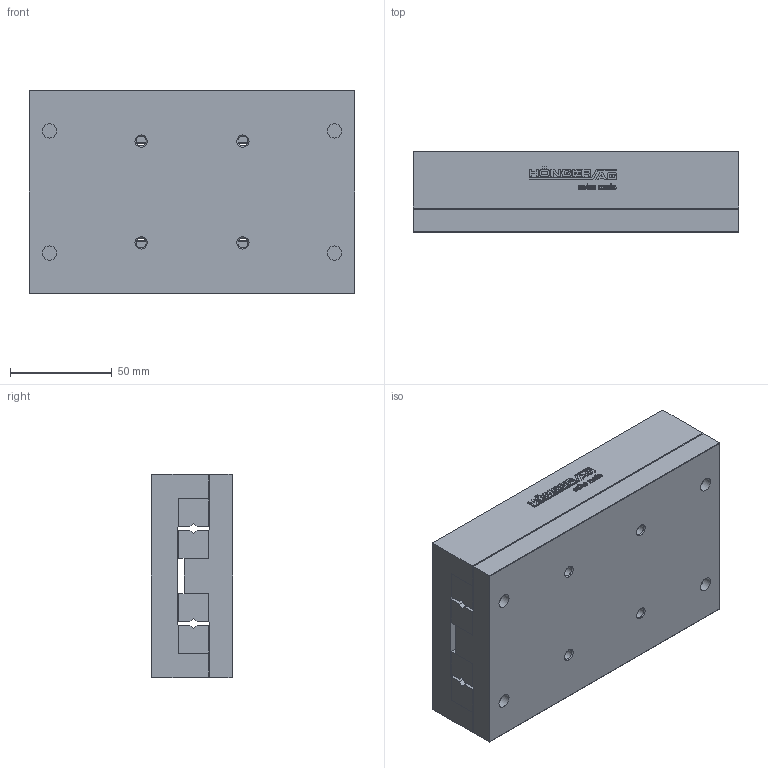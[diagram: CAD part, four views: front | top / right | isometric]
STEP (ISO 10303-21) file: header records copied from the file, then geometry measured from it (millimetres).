
FILE_DESCRIPTION(/* description */ ('STEP AP214'),/* implementation_level */ '2;1');
FILE_NAME(/* name */ 'NKL 6-160(0)',/* time_stamp */ '2025-04-24T11:41:14+02:00',/* author */ ('License CC BY-ND 4.0'),/* organization */ ('CADENAS'),/* preprocessor_version */ 'ST-DEVELOPER v19.3',/* originating_system */ 'PARTsolutions',/* authorisation */ ' ');
FILE_SCHEMA (('AUTOMOTIVE_DESIGN {1 0 10303 214 3 1 1}'));
Length unit declared in the file: millimetre
Products named in the file (3): NKL 6-160(0); NKL 6-160_1; NKL 6-160_2
Assembly tree (2 placements, depth 2):
  NKL 6-160(0)
    NKL 6-160_1
    NKL 6-160_2
Bounding box: 160 x 40 x 100 mm (x, y, z)
Volume: 610162.7 mm3; surface area: 116121.3 mm2
Topology: 2 solids, 2 shells, 603 faces, 1688 edges, 1108 vertices
Faces by surface type: cylinder 308, plane 279, cone 16
Full cylindrical faces by diameter (mm): 4.917 x8, 7 x4, 15 x4
Entity records: 19405 total; most frequent: DIRECTION 3500, CARTESIAN_POINT 3346, ORIENTED_EDGE 3288, EDGE_CURVE 1644, AXIS2_PLACEMENT_3D 1250, VERTEX_POINT 1096, LINE 1000, VECTOR 1000
